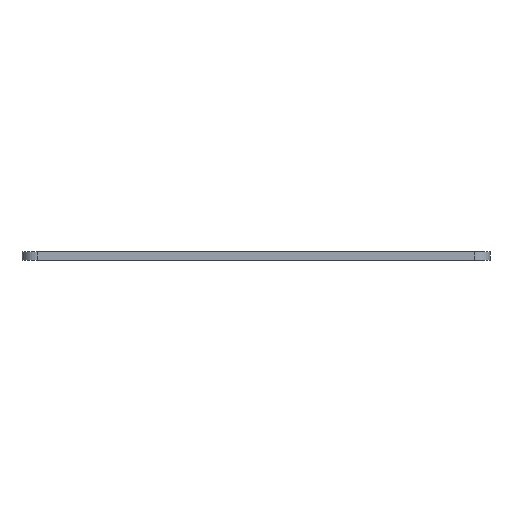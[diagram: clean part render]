
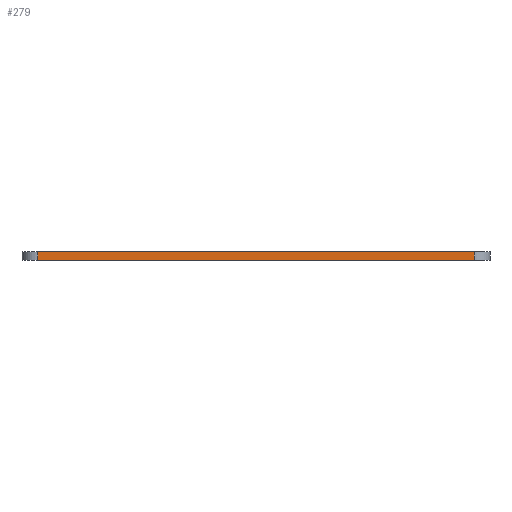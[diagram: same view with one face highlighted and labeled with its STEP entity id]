
A CAD part, front view. The second image highlights one B-rep face of the part: STEP entity #279.
In plain terms, the highlighted planar face has unit normal (0, -1, 0).
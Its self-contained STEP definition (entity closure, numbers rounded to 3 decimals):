
#49 = EDGE_CURVE('',#50,#52,#54,.T.);
#50 = VERTEX_POINT('',#51);
#51 = CARTESIAN_POINT('',(3.,0.,0.));
#52 = VERTEX_POINT('',#53);
#53 = CARTESIAN_POINT('',(3.,0.,1.621));
#54 = LINE('',#55,#56);
#55 = CARTESIAN_POINT('',(3.,0.,0.));
#56 = VECTOR('',#57,1.);
#57 = DIRECTION('',(0.,0.,1.));
#252 = VERTEX_POINT('',#253);
#253 = CARTESIAN_POINT('',(87.,0.,1.621));
#260 = EDGE_CURVE('',#261,#252,#263,.T.);
#261 = VERTEX_POINT('',#262);
#262 = CARTESIAN_POINT('',(87.,0.,0.));
#263 = LINE('',#264,#265);
#264 = CARTESIAN_POINT('',(87.,0.,0.));
#265 = VECTOR('',#266,1.);
#266 = DIRECTION('',(0.,0.,1.));
#279 = ADVANCED_FACE('',(#280),#296,.T.);
#280 = FACE_BOUND('',#281,.T.);
#281 = EDGE_LOOP('',(#282,#283,#289,#290));
#282 = ORIENTED_EDGE('',*,*,#260,.T.);
#283 = ORIENTED_EDGE('',*,*,#284,.T.);
#284 = EDGE_CURVE('',#252,#52,#285,.T.);
#285 = LINE('',#286,#287);
#286 = CARTESIAN_POINT('',(87.,0.,1.621));
#287 = VECTOR('',#288,1.);
#288 = DIRECTION('',(-1.,0.,0.));
#289 = ORIENTED_EDGE('',*,*,#49,.F.);
#290 = ORIENTED_EDGE('',*,*,#291,.F.);
#291 = EDGE_CURVE('',#261,#50,#292,.T.);
#292 = LINE('',#293,#294);
#293 = CARTESIAN_POINT('',(87.,0.,0.));
#294 = VECTOR('',#295,1.);
#295 = DIRECTION('',(-1.,0.,0.));
#296 = PLANE('',#297);
#297 = AXIS2_PLACEMENT_3D('',#298,#299,#300);
#298 = CARTESIAN_POINT('',(87.,0.,0.));
#299 = DIRECTION('',(0.,-1.,0.));
#300 = DIRECTION('',(-1.,0.,0.));
